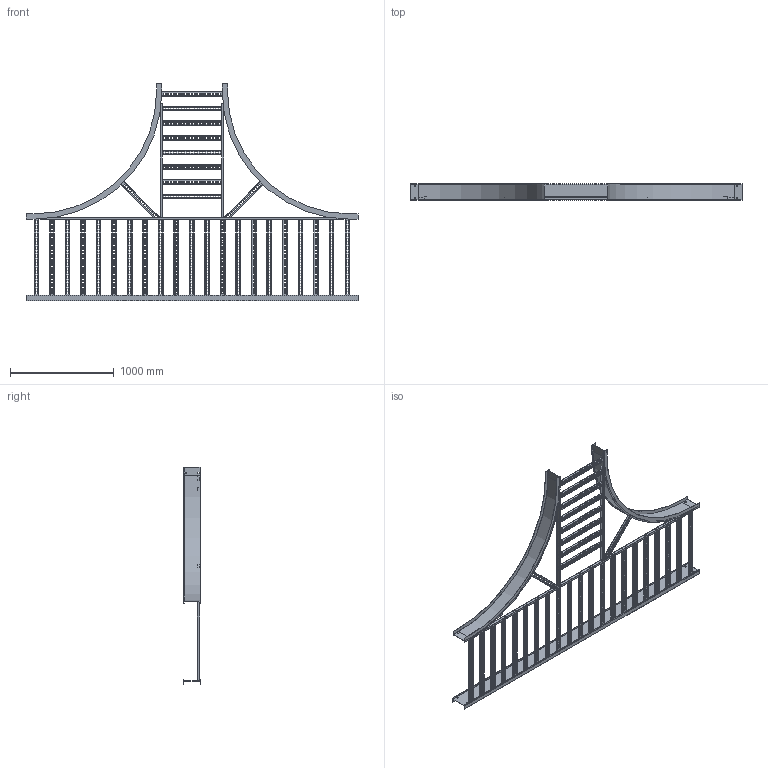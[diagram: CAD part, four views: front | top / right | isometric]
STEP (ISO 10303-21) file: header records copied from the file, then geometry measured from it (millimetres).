
FILE_DESCRIPTION((''),'2;1');
FILE_NAME('AHF63024VRT48_ASM','2010-02-15T',('erouzier'),(''),'PRO/ENGINEER BY PARAMETRIC TECHNOLOGY CORPORATION, 2008510','PRO/ENGINEER BY PARAMETRIC TECHNOLOGY CORPORATION, 2008510','');
FILE_SCHEMA(('CONFIG_CONTROL_DESIGN'));
Length unit declared in the file: inch
Products named in the file (22): CDS001812-6-90-48-I; CDS013847-6-126; CDS000495_GEN_AF9; CDS002159L30-P_AF8; CDS002159L30-P_AF9; CDS002159L30-P_AF10; CDS002159L30-P_AF11; CDS002159L30-P; CDS002159L30-P_AF12; CDS002159L30-P_AF13; CDS002159L30-P_AF14; CDS002159L30-P_AF15; CDS000495_GEN_AF10; CDS000495_GEN_AF11; CDS002159L24-P_AF10; CDS002159L24-P_AF11; CDS002159L24-P_AF12; CDS002159L24-P_AF13; CDS002159L24-P; CDS002159L24-P_AF14; CDS002159L24-P_AF15; AHF63024VRT48_ASM
Assembly tree (37 placements, depth 2):
  AHF63024VRT48_ASM
    CDS001812-6-90-48-I  x2
    CDS013847-6-126
    CDS000495_GEN_AF9
    CDS002159L30-P_AF8
    CDS002159L30-P_AF9
    CDS002159L30-P_AF10
    CDS002159L30-P_AF11
    CDS002159L30-P  x13
    CDS002159L30-P_AF12
    CDS002159L30-P_AF13
    CDS002159L30-P_AF14
    CDS002159L30-P_AF15
    CDS000495_GEN_AF10
    CDS000495_GEN_AF11
    CDS002159L24-P_AF10
    CDS002159L24-P_AF11
    CDS002159L24-P_AF12
    CDS002159L24-P_AF13
    CDS002159L24-P  x4
    CDS002159L24-P_AF14
    CDS002159L24-P_AF15
Bounding box: 3205.48 x 160.02 x 2097.15 mm (x, y, z)
Volume: 8412086.6 mm3; surface area: 9308503.5 mm2
Topology: 37 solids, 37 shells, 7474 faces, 22200 edges, 14800 vertices
Faces by surface type: plane 3923, cylinder 3551
Entity records: 129215 total; most frequent: CARTESIAN_POINT 22601, ORIENTED_EDGE 22344, DIRECTION 22322, EDGE_CURVE 11172, VECTOR 7628, LINE 7628, VERTEX_POINT 7448, AXIS2_PLACEMENT_3D 7347
